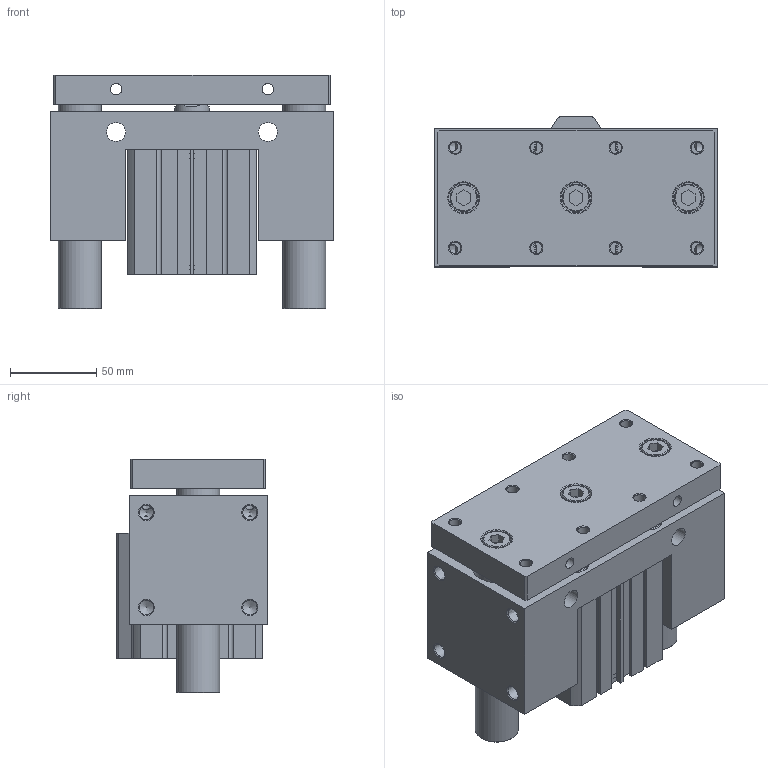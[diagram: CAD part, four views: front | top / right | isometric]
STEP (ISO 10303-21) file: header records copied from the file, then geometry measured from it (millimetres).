
FILE_DESCRIPTION((''),'2;1');
FILE_NAME('I:\3D電子目錄\氣缸\JCB\JCB\JCB63\JCB63x40.stp','2007-09-01T15:17:56',('Administrator'),(''),'Autodesk Inventor 11','Autodesk Inventor 11','');
FILE_SCHEMA(('AUTOMOTIVE_DESIGN { 1 0 10303 214 1 1 1 1 }'));
Length unit declared in the file: millimetre
Products named in the file (1): JCB63
Bounding box: 164 x 87 x 135.5 mm (x, y, z)
Volume: 1229995.4 mm3; surface area: 197079.2 mm2
Topology: 3 solids, 5 shells, 343 faces, 829 edges, 538 vertices
Faces by surface type: plane 186, cylinder 62, cone 47, bspline 40, torus 8
Full cylindrical faces by diameter (mm): 3 x2, 6.8 x4, 8.376 x4, 11 x8, 13 x4, 14 x4, 16 x3, 17.5 x3, 20 x1, 21 x1, 25 x2, 28 x2, 40 x1, 47 x1, 65 x4, 68 x2
Entity records: 10008 total; most frequent: CARTESIAN_POINT 2670, DIRECTION 1474, ORIENTED_EDGE 1320, EDGE_CURVE 660, EDGE_LOOP 554, AXIS2_PLACEMENT_3D 532, VERTEX_POINT 498, VECTOR 410
